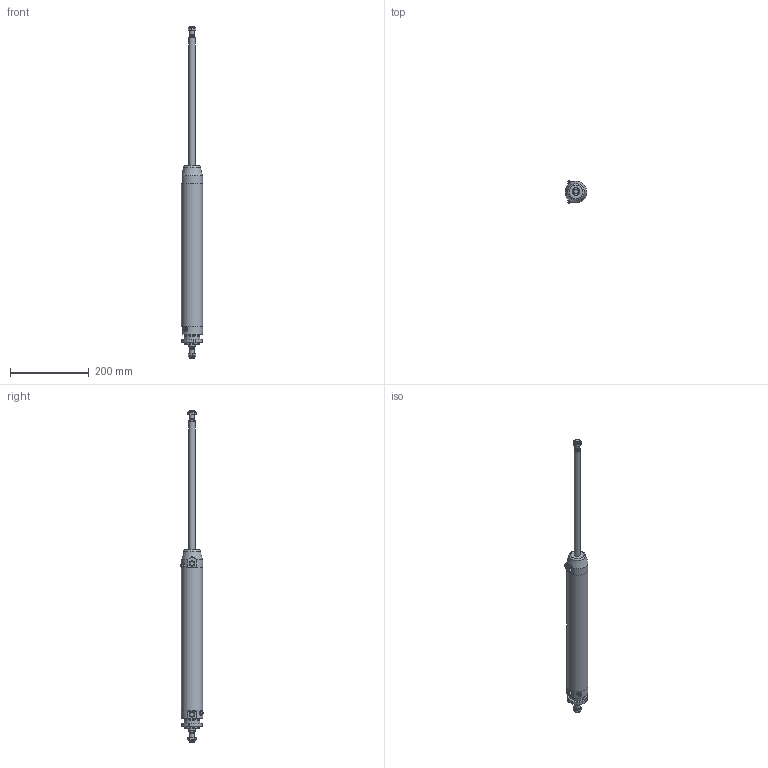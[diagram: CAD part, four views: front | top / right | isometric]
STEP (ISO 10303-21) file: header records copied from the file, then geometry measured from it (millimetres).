
FILE_DESCRIPTION(/* description */ (''),/* implementation_level */ '2;1');
FILE_NAME(/* name */ 'I:\Area Tecnica\Documenti\A-Manieri\_Inventor\12X\12X#T_###_####_#_#\12XDT_050_0320_#_#.stp',/* time_stamp */ '2015-05-13T09:09:28+02:00',/* author */ ('maniean1'),/* organization */ ('Pneumax S.p.A.'),/* preprocessor_version */ 'ST-DEVELOPER v15.2',/* originating_system */ 'Autodesk Inventor 2014',/* authorisation */ '');
FILE_SCHEMA (('AUTOMOTIVE_DESIGN { 1 0 10303 214 3 1 1 }'));
Length unit declared in the file: millimetre
Products named in the file (7): C1250_619-0320; 12X50_606; SP12X50_0320; 12X_50_11; 12X50_614; G12X_050_05; 12XDT_050_0320_#_#
Bounding box: 54 x 57.75 x 842 mm (x, y, z)
Volume: 517699.8 mm3; surface area: 201440.4 mm2
Topology: 7 solids, 7 shells, 125 faces, 280 edges, 180 vertices
Faces by surface type: plane 66, cylinder 30, cone 26, torus 3
Full cylindrical faces by diameter (mm): 5 x2, 10.2 x2, 11 x2, 11.4 x2, 12 x4, 14 x2, 15.6 x2, 16 x2, 38.2 x1, 40 x3, 50 x2, 54 x3
Entity records: 3058 total; most frequent: CARTESIAN_POINT 614, DIRECTION 513, ORIENTED_EDGE 402, AXIS2_PLACEMENT_3D 219, EDGE_CURVE 201, EDGE_LOOP 178, VERTEX_POINT 153, ADVANCED_FACE 114
